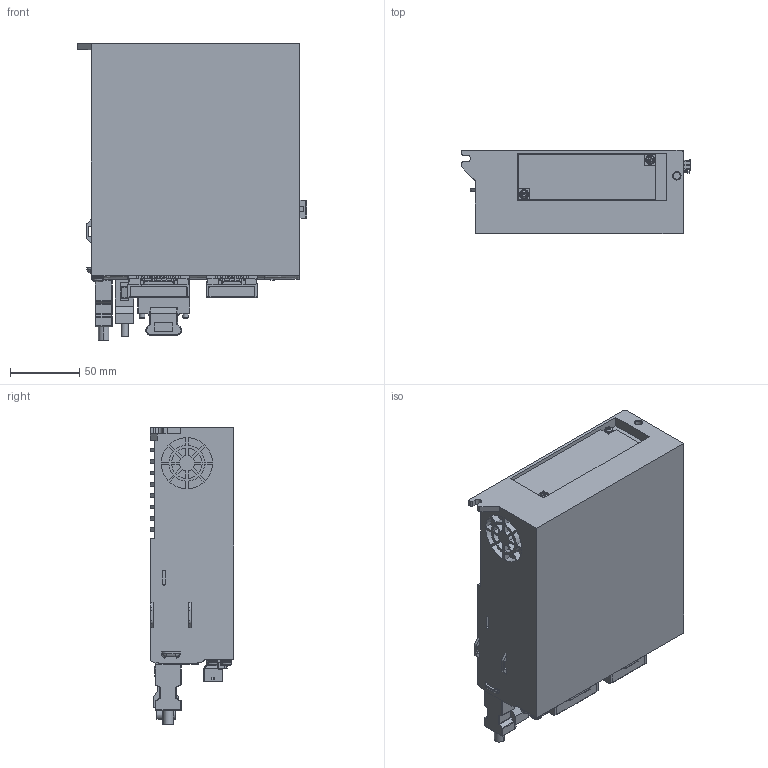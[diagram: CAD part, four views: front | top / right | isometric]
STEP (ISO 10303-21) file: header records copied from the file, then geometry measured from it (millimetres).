
FILE_DESCRIPTION (( 'STEP AP214' ), '1' );
FILE_NAME ('Ω6s-AN-B型-全能&直线-整机外形图.STEP', '2023-04-19T05:19:00', ( '' ), ( '' ), 'SwSTEP 2.0', 'SolidWorks 2014', '' );
FILE_SCHEMA (( 'AUTOMOTIVE_DESIGN' ));
Length unit declared in the file: millimetre
Products named in the file (27): MUF-PK10K-X; M3-H6; STOG2X4P; jack-t3507505; jack-t3507506; plug-t3507506; JDZcoder; 750WK; plug-t3507505; Ω6s-AN-B型-全能&直线-整机外形图; M4-H8; 26pinMDRplug; STOM2X04P
Assembly tree (14 placements, depth 2):
  MUF-PK10K-X
  STOG2X4P
  jack-t3507505
  jack-t3507506
  JDZcoder
Bounding box: 165.5 x 60 x 214.2 mm (x, y, z)
Volume: 1385159.2 mm3; surface area: 200323.5 mm2
Topology: 25 solids, 25 shells, 4649 faces, 12912 edges, 8375 vertices
Faces by surface type: plane 3602, cylinder 541, bspline 452, sphere 22, cone 20, torus 12
Entity records: 164815 total; most frequent: CARTESIAN_POINT 50328, ORIENTED_EDGE 25384, DIRECTION 20464, EDGE_CURVE 12692, VECTOR 10492, LINE 10492, VERTEX_POINT 8247, AXIS2_PLACEMENT_3D 4986
